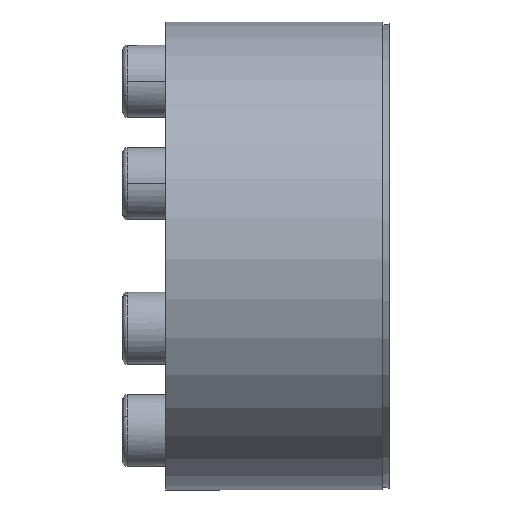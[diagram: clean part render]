
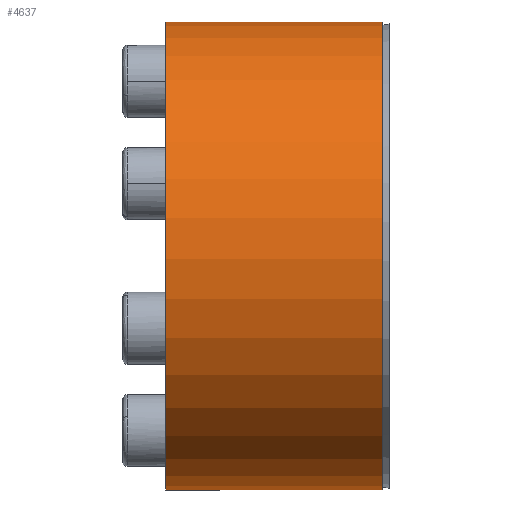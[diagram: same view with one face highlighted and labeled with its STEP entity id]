
A CAD part, left-side view. The second image highlights one B-rep face of the part: STEP entity #4637.
In plain terms, the highlighted cylindrical face has radius 32.5 mm (diameter 65 mm), a partial arc.
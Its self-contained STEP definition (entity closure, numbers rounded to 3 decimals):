
#809 = VERTEX_POINT ( 'NONE', #10682 ) ;
#888 = CARTESIAN_POINT ( 'NONE',  ( 0., 48.794, 0. ) ) ;
#959 = CIRCLE ( 'NONE', #8144, 32.5 ) ;
#1322 = VERTEX_POINT ( 'NONE', #12336 ) ;
#1734 = EDGE_CURVE ( 'NONE', #11108, #1322, #8169, .T. ) ;
#1793 = CARTESIAN_POINT ( 'NONE',  ( -0.8, 48.794, 32.49 ) ) ;
#2014 = ORIENTED_EDGE ( 'NONE', *, *, #12569, .T. ) ;
#2217 = CARTESIAN_POINT ( 'NONE',  ( 0.8, 48.794, 32.49 ) ) ;
#2234 = ORIENTED_EDGE ( 'NONE', *, *, #1734, .T. ) ;
#2281 = DIRECTION ( 'NONE',  ( 0., -1., 0. ) ) ;
#2330 = VECTOR ( 'NONE', #2281, 1000. ) ;
#2427 = VERTEX_POINT ( 'NONE', #6811 ) ;
#2683 = CARTESIAN_POINT ( 'NONE',  ( 0., 31.002, 0. ) ) ;
#3423 = CYLINDRICAL_SURFACE ( 'NONE', #7780, 32.5 ) ;
#3547 = ORIENTED_EDGE ( 'NONE', *, *, #4552, .T. ) ;
#3772 = DIRECTION ( 'NONE',  ( 0., 0., 1. ) ) ;
#4228 = DIRECTION ( 'NONE',  ( 0., 1., 0. ) ) ;
#4552 = EDGE_CURVE ( 'NONE', #2427, #809, #11712, .T. ) ;
#4637 = ADVANCED_FACE ( 'NONE', ( #6678 ), #3423, .T. ) ;
#5135 = AXIS2_PLACEMENT_3D ( 'NONE', #2683, #10020, #3772 ) ;
#5317 = CARTESIAN_POINT ( 'NONE',  ( 0.8, 31.002, 32.49 ) ) ;
#5325 = EDGE_CURVE ( 'NONE', #1322, #2427, #959, .T. ) ;
#6678 = FACE_OUTER_BOUND ( 'NONE', #10864, .T. ) ;
#6811 = CARTESIAN_POINT ( 'NONE',  ( -0.8, 1.002, 32.49 ) ) ;
#7780 = AXIS2_PLACEMENT_3D ( 'NONE', #888, #9338, #13571 ) ;
#8144 = AXIS2_PLACEMENT_3D ( 'NONE', #10487, #4228, #11548 ) ;
#8169 = LINE ( 'NONE', #2217, #2330 ) ;
#9338 = DIRECTION ( 'NONE',  ( 0., 1., 0. ) ) ;
#10020 = DIRECTION ( 'NONE',  ( 0., -1., 0. ) ) ;
#10076 = DIRECTION ( 'NONE',  ( 0., 1., 0. ) ) ;
#10487 = CARTESIAN_POINT ( 'NONE',  ( 0., 1.002, 0. ) ) ;
#10682 = CARTESIAN_POINT ( 'NONE',  ( -0.8, 31.002, 32.49 ) ) ;
#10864 = EDGE_LOOP ( 'NONE', ( #12617, #3547, #2014, #2234 ) ) ;
#11108 = VERTEX_POINT ( 'NONE', #5317 ) ;
#11354 = VECTOR ( 'NONE', #10076, 1000. ) ;
#11548 = DIRECTION ( 'NONE',  ( 0., 0., 1. ) ) ;
#11712 = LINE ( 'NONE', #1793, #11354 ) ;
#11961 = CIRCLE ( 'NONE', #5135, 32.5 ) ;
#12336 = CARTESIAN_POINT ( 'NONE',  ( 0.8, 1.002, 32.49 ) ) ;
#12569 = EDGE_CURVE ( 'NONE', #809, #11108, #11961, .T. ) ;
#12617 = ORIENTED_EDGE ( 'NONE', *, *, #5325, .T. ) ;
#13571 = DIRECTION ( 'NONE',  ( 0., 0., 1. ) ) ;
